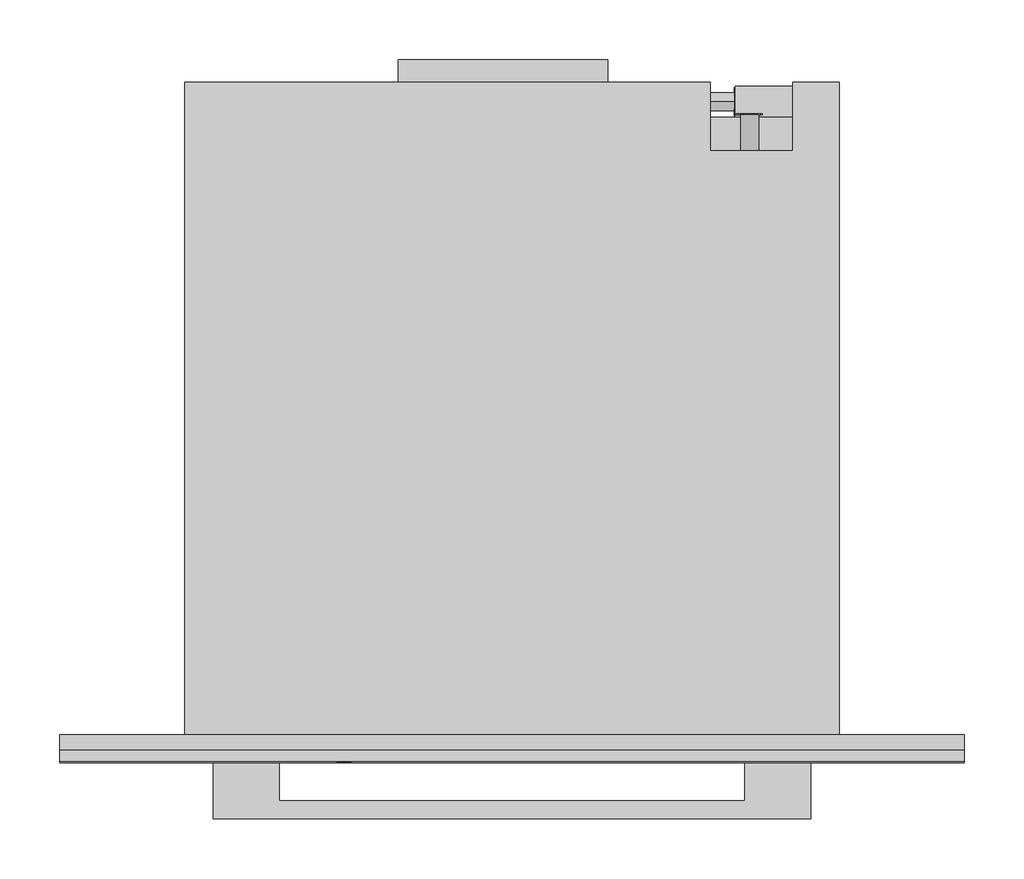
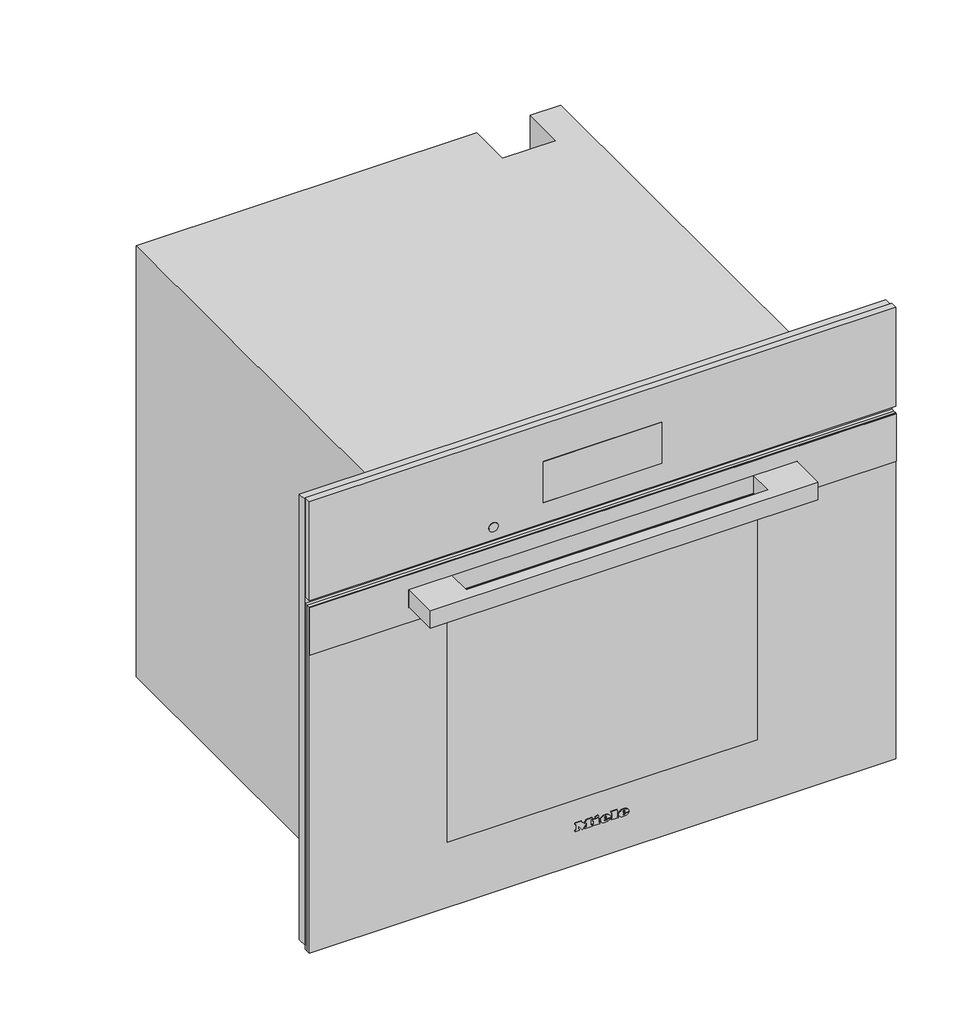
# Not in any storey: 1 proxy.
"""IFC4 building model written with IfcOpenShell, lengths in millimetres."""

import ifcopenshell
import ifcopenshell.guid

model = None  # the IFC model being written
_history = None  # IfcOwnerHistory: only IFC2X3 demands one
_inside = {}  # id of a spatial element -> (the spatial element, [elements in it])
_under = {}  # id of a project, library or spatial element -> (it, [spatial elements below it])
_declared = {}  # id of a project -> (the project, [libraries it declares])
_typed = {}  # id of a type object -> (the type object, [elements of that type])
_made_of = {}  # id of a material, layer set ... -> (it, [elements and type objects made of it])


def new_model(schema):
    """Start an empty IFC model of exactly this schema.

    Asked for "IFC4X3", IfcOpenShell would pick the latest addendum, in which some entities
    have other attributes; the version numbers below select the first issue.
    IFC2X3 requires an IfcOwnerHistory on every rooted entity: one is made here for all.
    """
    global model, _history
    if schema == "IFC4X3":
        model = ifcopenshell.file(schema_version=(4, 3, 0, 0))
    else:
        model = ifcopenshell.file(schema=schema)
    _inside.clear()
    _under.clear()
    _declared.clear()
    _typed.clear()
    _made_of.clear()
    _history = None
    if model.schema == "IFC2X3":
        org = make("IfcOrganization", Name="unknown")
        user = make(
            "IfcPersonAndOrganization",
            ThePerson=make("IfcPerson", FamilyName="unknown"),
            TheOrganization=org,
        )
        app = make(
            "IfcApplication",
            ApplicationDeveloper=org,
            Version="unknown",
            ApplicationFullName="unknown",
            ApplicationIdentifier="unknown",
        )
        _history = make(
            "IfcOwnerHistory",
            OwningUser=user,
            OwningApplication=app,
            ChangeAction="ADDED",
            CreationDate=0,
        )
    return model


def make(cls, **values):
    """One entity of the class cls with the attributes given. An attribute that is None is left unset."""
    return model.create_entity(
        cls, **{name: value for name, value in values.items() if value is not None}
    )


def rooted(cls, **values):
    """An entity with a GlobalId (a new one), such as an element, a storey or a relation."""
    return make(cls, GlobalId=ifcopenshell.guid.new(), OwnerHistory=_history, **values)


def si_unit(unit_type, name, prefix=None):
    """IfcSIUnit, for example si_unit("LENGTHUNIT", "METRE", prefix="MILLI")."""
    return make("IfcSIUnit", UnitType=unit_type, Prefix=prefix, Name=name)


def assignment(units):
    """IfcUnitAssignment: the units of a project."""
    return None if units is None else make("IfcUnitAssignment", Units=units)


def point(xyz):
    """IfcCartesianPoint."""
    return None if xyz is None else make("IfcCartesianPoint", Coordinates=xyz)


def direction(xyz):
    """IfcDirection."""
    return None if xyz is None else make("IfcDirection", DirectionRatios=xyz)


def frame(location, z_axis=None, x_axis=None):
    """IfcAxis2Placement3D, a coordinate frame: its origin and axes. An axis left out is left unset."""
    return make(
        "IfcAxis2Placement3D",
        Location=point(location),
        Axis=direction(z_axis),
        RefDirection=direction(x_axis),
    )


def frame_2d(location, x_axis=None):
    """IfcAxis2Placement2D, a coordinate frame in the plane: its origin and x axis."""
    return make(
        "IfcAxis2Placement2D", Location=point(location), RefDirection=direction(x_axis)
    )


def origin():
    """The frame at (0, 0, 0) with its axes left unset."""
    return frame((0.0, 0.0, 0.0))


def place(relative_to, where):
    """IfcLocalPlacement: puts the frame where relative to a parent placement (None: the world)."""
    return make(
        "IfcLocalPlacement", PlacementRelTo=relative_to, RelativePlacement=where
    )


def context(
    kind, dimensions, precision=None, world=None, true_north=None, identifier=None
):
    """IfcGeometricRepresentationContext, for example the 3D "Model" context."""
    return make(
        "IfcGeometricRepresentationContext",
        ContextIdentifier=identifier,
        ContextType=kind,
        CoordinateSpaceDimension=dimensions,
        Precision=precision,
        WorldCoordinateSystem=world,
        TrueNorth=true_north,
    )


def project(units=None, contexts=None):
    """IfcProject with its units and contexts."""
    return rooted(
        "IfcProject",
        Name="project",
        RepresentationContexts=contexts,
        UnitsInContext=assignment(units),
    )


def spatial(cls, under=None, at=None, **own):
    """A site, building, storey or space (cls), placed at a placement, below another one or the project."""
    s = rooted(cls, ObjectPlacement=at, **own)
    if under is not None:
        _under.setdefault(under.id(), (under, []))[1].append(s)
    return s


def polyline(points):
    """IfcPolyline through the points."""
    return make("IfcPolyline", Points=[point(p) for p in points])


def circle_curve(where, radius):
    """IfcCircle in the frame where."""
    return make("IfcCircle", Position=where, Radius=radius)


def ellipse_curve(where, semi_axis1, semi_axis2):
    """IfcEllipse in the frame where."""
    return make(
        "IfcEllipse", Position=where, SemiAxis1=semi_axis1, SemiAxis2=semi_axis2
    )


def trimmed(basis, trim1, trim2, sense, master):
    """IfcTrimmedCurve: the piece of a basis curve between two trims."""
    return make(
        "IfcTrimmedCurve",
        BasisCurve=basis,
        Trim1=trim1,
        Trim2=trim2,
        SenseAgreement=sense,
        MasterRepresentation=master,
    )


def segment(curve, same_sense, transition):
    """IfcCompositeCurveSegment."""
    return make(
        "IfcCompositeCurveSegment",
        Transition=transition,
        SameSense=same_sense,
        ParentCurve=curve,
    )


def composite_curve(segments, self_intersect=None):
    """IfcCompositeCurve: segments joined end to end."""
    return make("IfcCompositeCurve", Segments=segments, SelfIntersect=self_intersect)


def outline(outer, holes=None, kind="AREA"):
    """IfcArbitraryClosedProfileDef: a profile drawn as a closed curve; with holes, ...WithVoids."""
    if holes is None:
        return make("IfcArbitraryClosedProfileDef", ProfileType=kind, OuterCurve=outer)
    return make(
        "IfcArbitraryProfileDefWithVoids",
        ProfileType=kind,
        OuterCurve=outer,
        InnerCurves=holes,
    )


def extrude(swept, where, along, depth):
    """IfcExtrudedAreaSolid: the profile swept, set in the frame where, extruded along a direction by depth."""
    return make(
        "IfcExtrudedAreaSolid",
        SweptArea=swept,
        Position=where,
        ExtrudedDirection=direction(along),
        Depth=depth,
    )


def faces_of(points, faces, orient=None, outer=None):
    """IfcFace entities. A face is a list of loops; a loop is a list of indices into points, from 0.

    orient and outer hold one flag for each loop. By default every Orientation is true, the
    first loop of a face is its IfcFaceOuterBound and the others are IfcFaceBound.
    """
    made = []
    for i, loops in enumerate(faces):
        bounds = []
        for j, loop in enumerate(loops):
            is_outer = j == 0 if outer is None else outer[i][j]
            bounds.append(
                make(
                    "IfcFaceOuterBound" if is_outer else "IfcFaceBound",
                    Bound=make("IfcPolyLoop", Polygon=[points[k] for k in loop]),
                    Orientation=True if orient is None else orient[i][j],
                )
            )
        made.append(make("IfcFace", Bounds=bounds))
    return made


def faceted_brep(points, faces, orient=None, outer=None, voids=None):
    """IfcFacetedBrep: a solid bounded by flat faces; with voids (closed shells), ...WithVoids."""
    shared = [point(p) for p in points]
    hull = make("IfcClosedShell", CfsFaces=faces_of(shared, faces, orient, outer))
    if voids is None:
        return make("IfcFacetedBrep", Outer=hull)
    return make(
        "IfcFacetedBrepWithVoids",
        Outer=hull,
        Voids=[
            make(cls, CfsFaces=faces_of(shared, fs, o, b)) for cls, fs, o, b in voids
        ],
    )


def shape(context_of_items, identifier, shape_type, items):
    """IfcShapeRepresentation: the items that make up one representation, for example the "Body"."""
    return make(
        "IfcShapeRepresentation",
        ContextOfItems=context_of_items,
        RepresentationIdentifier=identifier,
        RepresentationType=shape_type,
        Items=items,
    )


def source(mapping_origin, context_of_items, identifier, shape_type, items):
    """IfcRepresentationMap: a shape defined once, which mapped items show again and again."""
    return make(
        "IfcRepresentationMap",
        MappingOrigin=mapping_origin,
        MappedRepresentation=shape(context_of_items, identifier, shape_type, items),
    )


def transform(
    local_origin,
    x_axis=None,
    y_axis=None,
    z_axis=None,
    scale=None,
    scale2=None,
    scale3=None,
    uniform=True,
):
    """IfcCartesianTransformationOperator3D, or its non-uniform kind. x_axis, y_axis, z_axis: its Axis1, 2, 3."""
    if uniform:
        return make(
            "IfcCartesianTransformationOperator3D",
            Axis1=direction(x_axis),
            Axis2=direction(y_axis),
            LocalOrigin=point(local_origin),
            Scale=scale,
            Axis3=direction(z_axis),
        )
    return make(
        "IfcCartesianTransformationOperator3DnonUniform",
        Axis1=direction(x_axis),
        Axis2=direction(y_axis),
        LocalOrigin=point(local_origin),
        Scale=scale,
        Axis3=direction(z_axis),
        Scale2=scale2,
        Scale3=scale3,
    )


def mapped(mapping_source, mapping_target):
    """IfcMappedItem: shows the shape of a source again, moved by a transform."""
    return make(
        "IfcMappedItem", MappingSource=mapping_source, MappingTarget=mapping_target
    )


def made_of(thing, what):
    """Note that an element or type object is made of a material, layer set ...; save() writes the relation."""
    if what is not None:
        _made_of.setdefault(what.id(), (what, []))[1].append(thing)
    return thing


def element(
    cls,
    number,
    at=None,
    inside=None,
    cuts=None,
    type_object=None,
    material=None,
    context=None,
    identifier="Body",
    shape_type=None,
    held_by="IfcProductDefinitionShape",
    body=None,
    shapes=None,
    **own,
):
    """One element of the class cls, such as IfcWall. Its Tag is "e" and its number.

    at: its placement. inside: the storey or other place that contains it. cuts: it is an
    opening in that element (IfcRelVoidsElement). A single representation is given by context,
    identifier, shape_type and body (its items); several are given by shapes. held_by: the class
    of the entity that holds the representations. save() writes the other relations.
    """
    e = rooted(cls, Tag="e%d" % number, ObjectPlacement=at, **own)
    if body is not None:
        shapes = [shape(context, identifier, shape_type, body)]
    if shapes is not None:
        e.Representation = make(held_by, Representations=shapes)
    if inside is not None:
        _inside.setdefault(inside.id(), (inside, []))[1].append(e)
    if cuts is not None:
        rooted(
            "IfcRelVoidsElement", RelatingBuildingElement=cuts, RelatedOpeningElement=e
        )
    if type_object is not None:
        _typed.setdefault(type_object.id(), (type_object, []))[1].append(e)
    return made_of(e, material)


def aggregate(whole, parts):
    """IfcRelAggregates: a whole, such as a stair, and the parts it consists of."""
    return rooted("IfcRelAggregates", RelatingObject=whole, RelatedObjects=parts)


def save(model, path):
    """Write the relations noted so far, then the file.

    IfcRelAggregates (storeys below a building ...), IfcRelContainedInSpatialStructure (elements
    in a storey), IfcRelDefinesByType, IfcRelAssociatesMaterial and IfcRelDeclares: one each for
    every whole, place, type object, material and project.
    """
    for whole, parts in _under.values():
        aggregate(whole, parts)
    for where, things in _inside.values():
        rooted(
            "IfcRelContainedInSpatialStructure",
            RelatedElements=things,
            RelatingStructure=where,
        )
    for kind, things in _typed.values():
        rooted("IfcRelDefinesByType", RelatedObjects=things, RelatingType=kind)
    for what, things in _made_of.values():
        rooted("IfcRelAssociatesMaterial", RelatedObjects=things, RelatingMaterial=what)
    for by, libraries in _declared.values():
        rooted("IfcRelDeclares", RelatingContext=by, RelatedDefinitions=libraries)
    model.write(path)


def plane_surface(at):
    """IfcPlane: the flat surface through the origin of the frame at, square to its z axis."""
    return make("IfcPlane", Position=at)


def cylinder_surface(at, radius):
    """IfcCylindricalSurface: all points at the distance radius from the z axis of the frame at."""
    return make("IfcCylindricalSurface", Position=at, Radius=radius)


def revolved_surface(curve, axis_point, axis_direction):
    """IfcSurfaceOfRevolution: the curve turned about the line through axis_point along axis_direction."""
    return make(
        "IfcSurfaceOfRevolution",
        SweptCurve=make("IfcArbitraryOpenProfileDef", ProfileType="CURVE", Curve=curve),
        AxisPosition=make("IfcAxis1Placement", Location=point(axis_point), Axis=direction(axis_direction)),
    )


def extruded_surface(curve, direction_of_extrusion, depth):
    """IfcSurfaceOfLinearExtrusion: the curve pushed along a direction by depth."""
    return make(
        "IfcSurfaceOfLinearExtrusion",
        SweptCurve=make("IfcArbitraryOpenProfileDef", ProfileType="CURVE", Curve=curve),
        ExtrudedDirection=direction(direction_of_extrusion),
        Depth=depth,
    )


def advanced_brep(points, edges, surfaces, faces):
    """IfcAdvancedBrep: a solid bounded by faces that lie on surfaces and meet in shared edges.

    An edge is (start, end): straight between two places in points (the first is 0);
    or (start, end, curve); or (start, end, curve, False) where it runs against its curve.
    A face is (place in surfaces, loops), or (place, loops, False) where it looks against
    its surface's normal. A loop lists edges by number (the first is 1), with a minus sign
    where the edge is run from its end to its start. The first loop is the outer one.
    """
    corners = [point(p) for p in points]
    vertices = [make("IfcVertexPoint", VertexGeometry=c) for c in corners]
    made = []
    for start, end, *more in edges:
        made.append(
            make(
                "IfcEdgeCurve",
                EdgeStart=vertices[start],
                EdgeEnd=vertices[end],
                EdgeGeometry=more[0] if more else make("IfcPolyline", Points=[corners[start], corners[end]]),
                SameSense=more[1] if len(more) > 1 else True,
            )
        )
    hull = []
    for where, loops, *sense in faces:
        bounds = []
        for j, loop in enumerate(loops):
            ring = [make("IfcOrientedEdge", EdgeElement=made[abs(k) - 1], Orientation=k > 0) for k in loop]
            bounds.append(
                make(
                    "IfcFaceOuterBound" if j == 0 else "IfcFaceBound",
                    Bound=make("IfcEdgeLoop", EdgeList=ring),
                    Orientation=True,
                )
            )
        hull.append(make("IfcAdvancedFace", Bounds=bounds, FaceSurface=surfaces[where], SameSense=sense[0] if sense else True))
    return make("IfcAdvancedBrep", Outer=make("IfcClosedShell", CfsFaces=hull))


def specialty_equipment_7e705cc3(model_context):
    return source(origin(), model_context, "Body", "SolidModel", [
        faceted_brep([(378.5, -13.0, 617.0), (-378.5, -13.0, 617.0), (-378.5, -13.0, 9.0), (-272.5, -13.0, 9.0), (-272.5, -13.0, 485.0), (272.5, -13.0, 485.0), (272.5, -13.0, 9.0), (378.5, -13.0, 9.0), (378.5, 0.0, 617.0), (378.5, 0.0, 9.0), (-378.5, 0.0, 9.0), (-378.5, 0.0, 617.0), (231.0, 0.0, 61.0), (231.0, 0.0, 411.0), (-231.0, 0.0, 411.0), (-231.0, 0.0, 61.0), (272.5, -5.0, 9.0), (-272.5, -5.0, 9.0), (-272.5, -5.0, 485.0), (272.5, -5.0, 485.0), (231.0, -5.0, 411.0), (231.0, -5.0, 61.0), (-231.0, -5.0, 61.0), (-231.0, -5.0, 411.0)], [[[0, 1, 2, 3, 4, 5, 6, 7]], [[8, 9, 10, 11], [12, 13, 14, 15]], [[1, 0, 8, 11]], [[2, 1, 11, 10]], [[10, 9, 7, 6, 16, 17, 3, 2]], [[0, 7, 9, 8]], [[18, 19, 5, 4]], [[18, 4, 3, 17]], [[5, 19, 16, 6]], [[19, 18, 17, 16], [20, 21, 22, 23]], [[20, 13, 12, 21]], [[21, 12, 15, 22]], [[22, 15, 14, 23]], [[13, 20, 23, 14]]]),
        extrude(outline(polyline([(-95.0, 565.0), (80.0, 565.0), (80.0, 546.0), (-95.0, 546.0), (-95.0, 565.0)])), frame((0.0, 0.0, 311.0), z_axis=(0.0, 0.0, 1.0), x_axis=(1.0, 0.0, 0.0)), (0.0, 0.0, 1.0), 1.0),
        extrude(outline(polyline([(218.8383288, 522.0), (225.1236409, 522.0), (225.1236409, 511.9492425), (223.8571792, 511.9492425), (223.8571792, 520.7409796), (218.8383288, 520.7409796), (218.8383288, 522.0)])), frame((0.0, 0.0, 272.0), z_axis=(0.0, 0.0, 1.0), x_axis=(1.0, 0.0, 0.0)), (0.0, 0.0, 1.0), 1.0),
        extrude(outline(polyline([(227.0, 522.0), (234.3797826, 522.0), (234.3797826, 511.9503529), (227.15422, 511.9503529), (227.15422, 513.220938), (233.1355215, 513.220938), (233.1355215, 516.1975645), (227.4863097, 516.1975645), (227.4863097, 517.449242), (233.1355215, 517.449242), (233.1355215, 520.7448633), (227.0, 520.7448633), (227.0, 522.0)])), frame((0.0, 0.0, 272.0), z_axis=(0.0, 0.0, 1.0), x_axis=(1.0, 0.0, 0.0)), (0.0, 0.0, 1.0), 1.0),
        extrude(outline(polyline([(519.6429442, 19.9943805), (518.3113439, 19.9943805), (522.3179353, 30.0448542), (523.3959224, 30.0448542), (527.4062166, 20.0), (526.0536081, 20.0), (524.9175759, 23.121223), (520.7810217, 23.121223), (519.6429442, 19.9943805)]), holes=[polyline([(521.2587176, 24.4336815), (524.43988, 24.4336815), (522.8492988, 28.8037675), (521.2587176, 24.4336815)])]), frame((186.0, 0.0, 0.0), z_axis=(1.0, 0.0, 0.0), x_axis=(0.0, 1.0, 0.0)), (0.0, 0.0, 1.0), 1.0),
        extrude(outline(polyline([(530.5321321, 20.0), (527.8018067, 30.0490432), (529.0968223, 30.0490432), (531.1602937, 21.4201336), (533.686646, 30.0556718), (535.5455392, 30.0556718), (538.1024658, 21.4662572), (540.1658975, 30.0556718), (541.4634812, 30.0556718), (538.7128319, 20.0), (537.3799359, 20.0), (534.6350025, 28.8403806), (532.048723, 20.0), (530.5321321, 20.0)])), frame((186.0, 0.0, 0.0), z_axis=(1.0, 0.0, 0.0), x_axis=(0.0, 1.0, 0.0)), (0.0, 0.0, 1.0), 1.0),
        extrude(outline(composite_curve([segment(trimmed(circle_curve(frame_2d((227.0, 517.0)), 7.5), [point((219.5, 517.0))], [point((234.5, 517.0))], False, "CARTESIAN"), True, "CONTINUOUS"), segment(trimmed(circle_curve(frame_2d((227.0, 517.0)), 7.5), [point((234.5, 517.0))], [point((219.5, 517.0))], False, "CARTESIAN"), True, "CONTINUOUS")], self_intersect=False)), frame((0.0, 0.0, 273.0), z_axis=(0.0, 0.0, 1.0), x_axis=(1.0, 0.0, 0.0)), (0.0, 0.0, 1.0), 30.0),
        extrude(outline(polyline([(266.0, 517.0), (187.0, 517.0), (187.0, 543.0), (266.0, 543.0), (266.0, 517.0)])), frame((0.0, 0.0, 303.0), z_axis=(0.0, 0.0, 1.0), x_axis=(1.0, 0.0, 0.0)), (0.0, 0.0, 1.0), 111.0),
        extrude(outline(polyline([(523.0, 196.9217896), (523.0, 198.4267862), (533.0435673, 201.1942402), (533.0435673, 199.9014806), (524.4295103, 197.7797951), (533.0470645, 195.3087512), (533.0470645, 193.4373937), (524.4121052, 190.9191482), (533.0472266, 188.8443938), (533.0472266, 187.5376524), (523.0, 190.2769667), (523.0, 191.6257455), (531.8347238, 194.3884733), (523.0, 196.9217896)])), frame((0.0, 519.0, 0.0), z_axis=(0.0, 1.0, 0.0), x_axis=(0.0, 0.0, 1.0)), (0.0, 0.0, 1.0), 1.0),
        extrude(outline(polyline([(533.0468463, 209.521488), (533.0468463, 208.2566067), (528.129594, 208.2566067), (533.0474898, 203.1074328), (533.0474898, 201.3597489), (528.9313111, 205.6695027), (523.0, 201.1858157), (523.0, 202.7358731), (528.0700777, 206.5685235), (526.4282746, 208.2823622), (523.0, 208.2823622), (523.0, 209.521488), (533.0468463, 209.521488)])), frame((0.0, 519.0, 0.0), z_axis=(0.0, 1.0, 0.0), x_axis=(0.0, 0.0, 1.0)), (0.0, 0.0, 1.0), 1.0),
        extrude(outline(composite_curve([segment(trimmed(circle_curve(frame_2d((528.0, 199.0)), 7.5), [point((528.0, 206.5))], [point((528.0, 191.5))], False, "CARTESIAN"), True, "CONTINUOUS"), segment(trimmed(circle_curve(frame_2d((528.0, 199.0)), 7.5), [point((528.0, 191.5))], [point((528.0, 206.5))], False, "CARTESIAN"), True, "CONTINUOUS")], self_intersect=False)), frame((0.0, 489.0, 0.0), z_axis=(0.0, 1.0, 0.0), x_axis=(0.0, 0.0, 1.0)), (0.0, 0.0, 1.0), 30.0),
        extrude(outline(composite_curve([segment(trimmed(circle_curve(frame_2d((530.0, 25.0)), 7.5), [point((530.0, 17.5))], [point((530.0, 32.5))], False, "CARTESIAN"), True, "CONTINUOUS"), segment(trimmed(circle_curve(frame_2d((530.0, 25.0)), 7.5), [point((530.0, 32.5))], [point((530.0, 17.5))], False, "CARTESIAN"), True, "CONTINUOUS")], self_intersect=False)), frame((166.0, 0.0, 0.0), z_axis=(1.0, 0.0, 0.0), x_axis=(0.0, 1.0, 0.0)), (0.0, 0.0, 1.0), 20.0),
        faceted_brep([(-274.0, 546.0, 0.0), (-274.0, 546.0, 588.0), (166.0, 546.0, 588.0), (166.0, 546.0, 0.0), (235.0, 546.0, 588.0), (274.0, 546.0, 588.0), (274.0, 546.0, 478.0), (235.0, 546.0, 478.0), (274.0, 0.0, 588.0), (-274.0, 0.0, 588.0), (-274.0, 0.0, 0.0), (274.0, 0.0, 0.0), (231.0, 0.0, 411.0), (231.0, 0.0, 61.0), (-231.0, 0.0, 61.0), (-231.0, 0.0, 411.0), (235.0, 489.0, 588.0), (166.0, 489.0, 588.0), (166.0, 517.0, 0.0), (274.0, 517.0, 0.0), (274.0, 517.0, 478.0), (231.0, 411.0, 411.0), (-231.0, 411.0, 411.0), (-231.0, 411.0, 61.0), (231.0, 411.0, 61.0), (235.0, 489.0, 477.0), (166.0, 489.0, 477.0), (166.0, 517.0, 477.0), (235.0, 517.0, 477.0), (235.0, 517.0, 478.0)], [[[0, 1, 2, 3]], [[4, 5, 6, 7]], [[8, 9, 10, 11], [12, 13, 14, 15]], [[9, 8, 5, 4, 16, 17, 2, 1]], [[1, 0, 10, 9]], [[11, 10, 0, 3, 18, 19]], [[8, 11, 19, 20, 6, 5]], [[21, 22, 23, 24]], [[21, 24, 13, 12]], [[24, 23, 14, 13]], [[23, 22, 15, 14]], [[22, 21, 12, 15]], [[16, 25, 26, 17]], [[17, 26, 27, 18, 3, 2]], [[26, 25, 28, 27]], [[25, 16, 4, 7, 29, 28]], [[29, 20, 19, 18, 27, 28]], [[20, 29, 7, 6]]]),
        advanced_brep(
        [(26.2998, -23.0, 52.7018), (26.2998, -23.0, 53.8532), (33.9264, -23.0, 53.8532), (20.6568, -23.0, 53.8532), (23.7918, -23.0, 50.0), (33.7326, -23.0, 52.7018), (30.2898, -23.0, 52.7018), (27.5766, -23.0, 51.425), (26.2998, -23.0, 55.3124), (26.2998, -23.0, 56.555), (28.2492, -23.0, 56.555), (28.2492, -23.0, 55.3124), (26.2998, -22.0, 52.7018), (27.5766, -22.0, 51.425), (30.2898, -22.0, 52.7018), (33.7326, -22.0, 52.7018), (23.7918, -22.0, 50.0), (20.6568, -22.0, 53.8532), (33.9264, -22.0, 53.8532), (26.2998, -22.0, 53.8532), (26.2998, -22.0, 55.3124), (28.2492, -22.0, 55.3124), (28.2492, -22.0, 56.555), (26.2998, -22.0, 56.555)],
        [
            (0, 1),
            (1, 2),
            (2, 3, ellipse_curve(frame((27.2916, -23.0, 53.8532), z_axis=(0.0, -1.0, 0.0), x_axis=(-1.0, 0.0, 0.0)), 6.6348, 5.4834)),
            (3, 4, circle_curve(frame((25.0686622, -23.0, 54.2408), z_axis=(0.0, -1.0, 0.0), x_axis=(0.0, 0.0, -1.0)), 4.4288556)),
            (4, 5, circle_curve(frame((27.1587808, -23.0, 57.2504), z_axis=(0.0, -1.0, 0.0), x_axis=(0.0, 0.0, -1.0)), 7.9940516)),
            (5, 6),
            (6, 7, circle_curve(frame((28.1338588, -23.0, 53.762), z_axis=(0.0, 1.0, 0.0), x_axis=(0.0, 0.0, -1.0)), 2.4025208)),
            (7, 0, circle_curve(frame((27.5766, -23.0, 52.7018), z_axis=(0.0, 1.0, 0.0), x_axis=(0.0, 0.0, -1.0)), 1.2768)),
            (8, 9),
            (9, 10, circle_curve(frame((27.2745, -23.0, 56.555), z_axis=(0.0, 1.0, 0.0), x_axis=(0.0, 0.0, -1.0)), 0.9747)),
            (10, 11),
            (11, 8),
            (12, 13, circle_curve(frame((27.5766, -22.0, 52.7018), z_axis=(0.0, -1.0, 0.0), x_axis=(0.0, 0.0, -1.0)), 1.2768)),
            (13, 14, circle_curve(frame((28.1338588, -22.0, 53.762), z_axis=(0.0, -1.0, 0.0), x_axis=(0.0, 0.0, -1.0)), 2.4025208)),
            (14, 15),
            (15, 16, circle_curve(frame((27.1587808, -22.0, 57.2504), z_axis=(0.0, 1.0, 0.0), x_axis=(0.0, 0.0, -1.0)), 7.9940516)),
            (16, 17, circle_curve(frame((25.0686622, -22.0, 54.2408), z_axis=(0.0, 1.0, 0.0), x_axis=(0.0, 0.0, -1.0)), 4.4288556)),
            (17, 18, ellipse_curve(frame((27.2916, -22.0, 53.8532), z_axis=(0.0, 1.0, 0.0), x_axis=(-1.0, 0.0, 0.0)), 6.6348, 5.4834)),
            (18, 19),
            (19, 12),
            (20, 21),
            (21, 22),
            (22, 23, circle_curve(frame((27.2745, -22.0, 56.555), z_axis=(0.0, -1.0, 0.0), x_axis=(0.0, 0.0, -1.0)), 0.9747)),
            (23, 20),
            (0, 12),
            (19, 1),
            (18, 2),
            (5, 15),
            (14, 6),
            (17, 3),
            (13, 7),
            (16, 4),
            (8, 20),
            (23, 9),
            (22, 10),
            (21, 11),
        ],
        [
            plane_surface(frame((26.2998, -23.0, 53.8532), z_axis=(0.0, -1.0, 0.0), x_axis=(0.0, 0.0, 1.0))),
            plane_surface(frame((26.2998, -22.0, 53.8532), z_axis=(0.0, 1.0, 0.0), x_axis=(0.0, 0.0, -1.0))),
            plane_surface(frame((26.2998, -23.0, 52.7018), z_axis=(1.0, 0.0, 0.0), x_axis=(0.0, 1.0, 0.0))),
            plane_surface(frame((26.2998, -23.0, 53.8532), z_axis=(0.0, 0.0, -1.0), x_axis=(0.0, 1.0, 0.0))),
            plane_surface(frame((33.7326, -23.0, 52.7018), z_axis=(0.0, 0.0, 1.0), x_axis=(0.0, 1.0, 0.0))),
            extruded_surface(trimmed(ellipse_curve(frame((27.2916, -21.0, 53.8532), z_axis=(0.0, -1.0, 0.0), x_axis=(-1.0, 0.0, 0.0)), 6.6348, 5.4834), [point((33.9264, -21.0, 53.8532))], [point((20.6568, -21.0, 53.8532))], True, "CARTESIAN"), (0.0, -1.0, 0.0), 1.0),
            revolved_surface(polyline([(28.1338588, -22.0, 51.3594792), (28.1338588, -23.0, 51.3594792)]), (28.1338588, -22.0, 53.762), (0.0, 1.0, 0.0)),
            revolved_surface(polyline([(27.5766, -22.0, 51.425), (27.5766, -23.0, 51.425)]), (27.5766, -22.0, 52.7018), (0.0, 1.0, 0.0)),
            cylinder_surface(frame((25.0686622, -22.0, 54.2408), z_axis=(0.0, -1.0, 0.0), x_axis=(0.0, 0.0, -1.0)), 4.4288556),
            cylinder_surface(frame((27.1587808, -22.0, 57.2504), z_axis=(0.0, -1.0, 0.0), x_axis=(0.0, 0.0, -1.0)), 7.9940516),
            plane_surface(frame((26.2998, -23.0, 55.3124), z_axis=(1.0, 0.0, 0.0), x_axis=(0.0, 1.0, 0.0))),
            revolved_surface(polyline([(27.2745, -22.0, 55.5803), (27.2745, -23.0, 55.5803)]), (27.2745, -22.0, 56.555), (0.0, 1.0, 0.0)),
            plane_surface(frame((28.2492, -23.0, 56.555), z_axis=(-1.0, 0.0, 0.0), x_axis=(0.0, 1.0, 0.0))),
            plane_surface(frame((28.2492, -23.0, 55.3124), z_axis=(0.0, 0.0, 1.0), x_axis=(0.0, 1.0, 0.0))),
        ],
        [
            (0, [[1, 2, 3, 4, 5, 6, 7, 8], [9, 10, 11, 12]]),
            (1, [[13, 14, 15, 16, 17, 18, 19, 20], [21, 22, 23, 24]]),
            (2, [[-1, 25, -20, 26]]),
            (3, [[-2, -26, -19, 27]]),
            (4, [[-6, 28, -15, 29]]),
            (5, [[-3, -27, -18, 30]]),
            (6, [[-7, -29, -14, 31]]),
            (7, [[-8, -31, -13, -25]]),
            (8, [[-4, -30, -17, 32]]),
            (9, [[-5, -32, -16, -28]]),
            (10, [[-9, 33, -24, 34]]),
            (11, [[-10, -34, -23, 35]]),
            (12, [[-11, -35, -22, 36]]),
            (13, [[-12, -36, -21, -33]]),
        ],
    ),
        advanced_brep(
        [(2.508, -23.0, 52.7018), (2.508, -23.0, 53.8532), (10.1346, -23.0, 53.8532), (-3.135, -23.0, 53.8532), (0.0, -23.0, 50.0), (9.9408, -23.0, 52.7018), (6.498, -23.0, 52.7018), (3.7848, -23.0, 51.425), (2.508, -23.0, 55.3124), (2.508, -23.0, 56.555), (4.4574, -23.0, 56.555), (4.4574, -23.0, 55.3124), (2.508, -22.0, 52.7018), (3.7848, -22.0, 51.425), (6.498, -22.0, 52.7018), (9.9408, -22.0, 52.7018), (0.0, -22.0, 50.0), (-3.135, -22.0, 53.8532), (10.1346, -22.0, 53.8532), (2.508, -22.0, 53.8532), (2.508, -22.0, 55.3124), (4.4574, -22.0, 55.3124), (4.4574, -22.0, 56.555), (2.508, -22.0, 56.555)],
        [
            (0, 1),
            (1, 2),
            (2, 3, ellipse_curve(frame((3.4998, -23.0, 53.8532), z_axis=(0.0, -1.0, 0.0), x_axis=(-1.0, 0.0, 0.0)), 6.6348, 5.4834)),
            (3, 4, circle_curve(frame((1.2768622, -23.0, 54.2408), z_axis=(0.0, -1.0, 0.0), x_axis=(0.0, 0.0, -1.0)), 4.4288556)),
            (4, 5, circle_curve(frame((3.3669808, -23.0, 57.2504), z_axis=(0.0, -1.0, 0.0), x_axis=(0.0, 0.0, -1.0)), 7.9940516)),
            (5, 6),
            (6, 7, circle_curve(frame((4.3420588, -23.0, 53.762), z_axis=(0.0, 1.0, 0.0), x_axis=(0.0, 0.0, -1.0)), 2.4025208)),
            (7, 0, circle_curve(frame((3.7848, -23.0, 52.7018), z_axis=(0.0, 1.0, 0.0), x_axis=(0.0, 0.0, -1.0)), 1.2768)),
            (8, 9),
            (9, 10, circle_curve(frame((3.4827, -23.0, 56.555), z_axis=(0.0, 1.0, 0.0), x_axis=(0.0, 0.0, -1.0)), 0.9747)),
            (10, 11),
            (11, 8),
            (12, 13, circle_curve(frame((3.7848, -22.0, 52.7018), z_axis=(0.0, -1.0, 0.0), x_axis=(0.0, 0.0, -1.0)), 1.2768)),
            (13, 14, circle_curve(frame((4.3420588, -22.0, 53.762), z_axis=(0.0, -1.0, 0.0), x_axis=(0.0, 0.0, -1.0)), 2.4025208)),
            (14, 15),
            (15, 16, circle_curve(frame((3.3669808, -22.0, 57.2504), z_axis=(0.0, 1.0, 0.0), x_axis=(0.0, 0.0, -1.0)), 7.9940516)),
            (16, 17, circle_curve(frame((1.2768622, -22.0, 54.2408), z_axis=(0.0, 1.0, 0.0), x_axis=(0.0, 0.0, -1.0)), 4.4288556)),
            (17, 18, ellipse_curve(frame((3.4998, -22.0, 53.8532), z_axis=(0.0, 1.0, 0.0), x_axis=(-1.0, 0.0, 0.0)), 6.6348, 5.4834)),
            (18, 19),
            (19, 12),
            (20, 21),
            (21, 22),
            (22, 23, circle_curve(frame((3.4827, -22.0, 56.555), z_axis=(0.0, -1.0, 0.0), x_axis=(0.0, 0.0, -1.0)), 0.9747)),
            (23, 20),
            (0, 12),
            (19, 1),
            (18, 2),
            (5, 15),
            (14, 6),
            (17, 3),
            (13, 7),
            (16, 4),
            (8, 20),
            (23, 9),
            (22, 10),
            (21, 11),
        ],
        [
            plane_surface(frame((2.508, -23.0, 53.8532), z_axis=(0.0, -1.0, 0.0), x_axis=(0.0, 0.0, 1.0))),
            plane_surface(frame((2.508, -22.0, 53.8532), z_axis=(0.0, 1.0, 0.0), x_axis=(0.0, 0.0, -1.0))),
            plane_surface(frame((2.508, -23.0, 52.7018), z_axis=(1.0, 0.0, 0.0), x_axis=(0.0, 1.0, 0.0))),
            plane_surface(frame((2.508, -23.0, 53.8532), z_axis=(0.0, 0.0, -1.0), x_axis=(0.0, 1.0, 0.0))),
            plane_surface(frame((9.9408, -23.0, 52.7018), z_axis=(0.0, 0.0, 1.0), x_axis=(0.0, 1.0, 0.0))),
            extruded_surface(trimmed(ellipse_curve(frame((3.4998, -21.0, 53.8532), z_axis=(0.0, -1.0, 0.0), x_axis=(-1.0, 0.0, 0.0)), 6.6348, 5.4834), [point((10.1346, -21.0, 53.8532))], [point((-3.135, -21.0, 53.8532))], True, "CARTESIAN"), (0.0, -1.0, 0.0), 1.0),
            revolved_surface(polyline([(4.3420588, -22.0, 51.3594792), (4.3420588, -23.0, 51.3594792)]), (4.3420588, -22.0, 53.762), (0.0, 1.0, 0.0)),
            revolved_surface(polyline([(3.7848, -22.0, 51.425), (3.7848, -23.0, 51.425)]), (3.7848, -22.0, 52.7018), (0.0, 1.0, 0.0)),
            cylinder_surface(frame((1.2768622, -22.0, 54.2408), z_axis=(0.0, -1.0, 0.0), x_axis=(0.0, 0.0, -1.0)), 4.4288556),
            cylinder_surface(frame((3.3669808, -22.0, 57.2504), z_axis=(0.0, -1.0, 0.0), x_axis=(0.0, 0.0, -1.0)), 7.9940516),
            plane_surface(frame((2.508, -23.0, 55.3124), z_axis=(1.0, 0.0, 0.0), x_axis=(0.0, 1.0, 0.0))),
            revolved_surface(polyline([(3.4827, -22.0, 55.5803), (3.4827, -23.0, 55.5803)]), (3.4827, -22.0, 56.555), (0.0, 1.0, 0.0)),
            plane_surface(frame((4.4574, -23.0, 56.555), z_axis=(-1.0, 0.0, 0.0), x_axis=(0.0, 1.0, 0.0))),
            plane_surface(frame((4.4574, -23.0, 55.3124), z_axis=(0.0, 0.0, 1.0), x_axis=(0.0, 1.0, 0.0))),
        ],
        [
            (0, [[1, 2, 3, 4, 5, 6, 7, 8], [9, 10, 11, 12]]),
            (1, [[13, 14, 15, 16, 17, 18, 19, 20], [21, 22, 23, 24]]),
            (2, [[-1, 25, -20, 26]]),
            (3, [[-2, -26, -19, 27]]),
            (4, [[-6, 28, -15, 29]]),
            (5, [[-3, -27, -18, 30]]),
            (6, [[-7, -29, -14, 31]]),
            (7, [[-8, -31, -13, -25]]),
            (8, [[-4, -30, -17, 32]]),
            (9, [[-5, -32, -16, -28]]),
            (10, [[-9, 33, -24, 34]]),
            (11, [[-10, -34, -23, 35]]),
            (12, [[-11, -35, -22, 36]]),
            (13, [[-12, -36, -21, -33]]),
        ],
    ),
        extrude(outline(polyline([(60.7274, -9.9522), (58.8806, -9.0858), (60.6818, -5.2212), (62.5286, -6.0762), (60.7274, -9.9522)])), frame((0.0, -23.0, 0.0), z_axis=(0.0, 1.0, 0.0), x_axis=(0.0, 0.0, 1.0)), (0.0, 0.0, 1.0), 1.0),
        extrude(outline(polyline([(58.6298, -12.768), (56.5892, -12.768), (56.5892, -11.4114), (51.9152, -11.4114), (51.9152, -12.768), (50.0, -12.768), (50.0, -3.7734), (51.9152, -3.7734), (51.9152, -5.0958), (58.6298, -5.0958), (58.6298, -12.768)])), frame((0.0, -23.0, 0.0), z_axis=(0.0, 1.0, 0.0), x_axis=(0.0, 0.0, 1.0)), (0.0, 0.0, 1.0), 1.0),
        extrude(outline(polyline([(59.5418, 10.773), (59.5418, 12.141), (51.9152, 12.141), (51.9152, 10.773), (50.0, 10.773), (50.0, 20.0184), (51.9152, 20.0184), (51.9152, 18.6162), (61.4, 18.6162), (61.4, 10.773), (59.5418, 10.773)])), frame((0.0, -23.0, 0.0), z_axis=(0.0, 1.0, 0.0), x_axis=(0.0, 0.0, 1.0)), (0.0, 0.0, 1.0), 1.0),
        extrude(outline(polyline([(59.5418, -35.4882), (59.5418, -34.1088), (51.9152, -34.1088), (51.9152, -35.4882), (50.0, -35.4882), (50.0, -30.4722), (51.9152, -30.4722), (51.9152, -31.8402), (56.7429247, -31.8402), (50.0, -26.7444), (56.9402223, -21.6258), (51.9152, -21.6258), (51.9152, -23.028), (50.0, -23.028), (50.0, -13.9308), (51.9152, -13.9308), (51.9152, -15.3786), (59.5418, -15.3786), (59.5418, -13.9308), (61.4, -13.9308), (61.4, -20.8734), (57.125, -24.2022), (61.4, -27.5424), (61.4, -35.4882), (59.5418, -35.4882)])), frame((0.0, -23.0, 0.0), z_axis=(0.0, 1.0, 0.0), x_axis=(0.0, 0.0, 1.0)), (0.0, 0.0, 1.0), 1.0),
        extrude(outline(composite_curve([segment(trimmed(circle_curve(frame_2d((502.0, -140.5745637)), 6.0), [point((502.0, -146.5745637))], [point((502.0, -134.5745637))], False, "CARTESIAN"), True, "CONTINUOUS"), segment(trimmed(circle_curve(frame_2d((502.0, -140.5745637)), 6.0), [point((502.0, -134.5745637))], [point((502.0, -146.5745637))], False, "CARTESIAN"), True, "CONTINUOUS")], self_intersect=False)), frame((0.0, -22.5, 0.0), z_axis=(0.0, 1.0, 0.0), x_axis=(0.0, 0.0, 1.0)), (0.0, 0.0, 1.0), 1.0),
        extrude(outline(polyline([(-76.5, -21.0), (76.5, -21.0), (76.5, -22.0), (-76.5, -22.0), (-76.5, -21.0)])), frame((0.0, 0.0, 513.0), z_axis=(0.0, 0.0, 1.0), x_axis=(1.0, 0.0, 0.0)), (0.0, 0.0, 1.0), 56.0),
        faceted_brep([(378.5, -22.0, 620.0), (-378.5, -22.0, 620.0), (-378.5, -22.0, 485.0), (378.5, -22.0, 485.0), (76.5, -22.0, 569.0), (76.5, -22.0, 513.0), (-76.5, -22.0, 513.0), (-76.5, -22.0, 569.0), (378.5, -13.0, 620.0), (378.5, -13.0, 485.0), (-378.5, -13.0, 485.0), (-378.5, -13.0, 620.0), (76.5, -21.0, 569.0), (-76.5, -21.0, 569.0), (-76.5, -21.0, 513.0), (76.5, -21.0, 513.0)], [[[0, 1, 2, 3], [4, 5, 6, 7]], [[8, 9, 10, 11]], [[1, 0, 8, 11]], [[2, 1, 11, 10]], [[3, 2, 10, 9]], [[0, 3, 9, 8]], [[12, 13, 14, 15]], [[12, 15, 5, 4]], [[15, 14, 6, 5]], [[14, 13, 7, 6]], [[13, 12, 4, 7]]]),
        extrude(outline(polyline([(200.0, -22.0), (-200.0, -22.0), (-200.0, -18.0), (200.0, -18.0), (200.0, -22.0)])), frame((0.0, 0.0, 92.5), z_axis=(0.0, 0.0, 1.0), x_axis=(1.0, 0.0, 0.0)), (0.0, 0.0, 1.0), 300.0),
        extrude(outline(polyline([(476.0, 378.5), (476.0, -378.5), (4.0, -378.5), (4.0, 378.5), (476.0, 378.5)]), holes=[polyline([(392.5, -200.0), (392.5, 200.0), (92.5, 200.0), (92.5, -200.0), (392.5, -200.0)])]), frame((0.0, -22.0, 0.0), z_axis=(0.0, 1.0, 0.0), x_axis=(0.0, 0.0, 1.0)), (0.0, 0.0, 1.0), 4.0),
        extrude(outline(polyline([(476.0, 378.5), (476.0, -378.5), (411.0, -378.5), (411.0, 378.5), (476.0, 378.5)]), holes=[polyline([(456.0, -250.5), (456.0, 250.5), (431.0, 250.5), (431.0, -250.5), (456.0, -250.5)])]), frame((0.0, -23.3, 0.0), z_axis=(0.0, 1.0, 0.0), x_axis=(0.0, 0.0, 1.0)), (0.0, 0.0, 1.0), 1.3),
        extrude(outline(polyline([(-250.0, -70.3), (-250.0, -22.0), (-195.0, -22.0), (-195.0, -55.3), (195.0, -55.3), (195.0, -22.0), (250.0, -22.0), (250.0, -70.3), (-250.0, -70.3)])), frame((0.0, 0.0, 431.5), z_axis=(0.0, 0.0, 1.0), x_axis=(1.0, 0.0, 0.0)), (0.0, 0.0, 1.0), 24.0),
        extrude(outline(polyline([(378.5, -18.0), (-378.5, -18.0), (-378.5, -13.0), (378.5, -13.0), (378.5, -18.0)])), frame((0.0, 0.0, 4.0), z_axis=(0.0, 0.0, 1.0), x_axis=(1.0, 0.0, 0.0)), (0.0, 0.0, 1.0), 472.0),
    ])


model = new_model("IFC4")

# Units and contexts
model_context = context("Model", 3, world=origin())
ifc_project = project(units=[si_unit("LENGTHUNIT", "METRE", prefix="MILLI")], contexts=[model_context])

# Site, building
site = spatial("IfcSite", under=ifc_project)
building = spatial("IfcBuilding", under=site)

# Proxy
placement = place(None, origin())
specialty_equipment_shape = specialty_equipment_7e705cc3(model_context)
element("IfcBuildingElementProxy", 1, Name="11876310_USA_DGC7885_EDST-CLST : 23788543_USA_11876310_DGC7885_EDST-CLST", ObjectType="11876310_USA_DGC7885_EDST-CLST : 23788543_USA_11876310_DGC7885_EDST-CLST", at=placement, inside=building, context=model_context, shape_type="MappedRepresentation", body=[
    mapped(specialty_equipment_shape, transform((0.0, 0.0, 0.0), x_axis=(1.0, 0.0, 0.0), y_axis=(0.0, 1.0, 0.0), z_axis=(0.0, 0.0, 1.0))),
])

save(model, "model.ifc")
